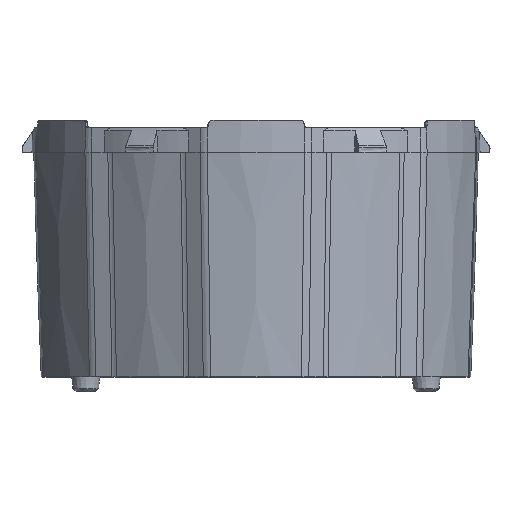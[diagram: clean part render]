
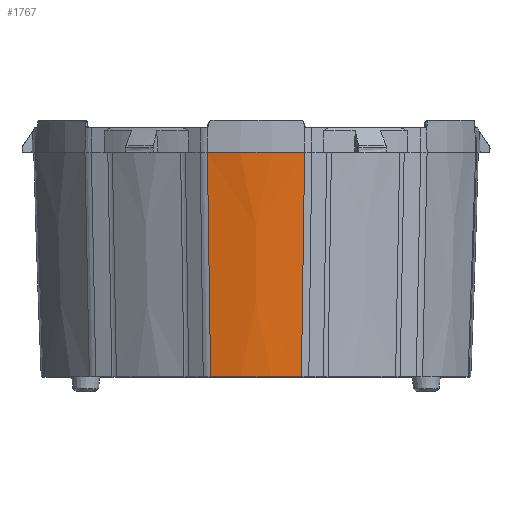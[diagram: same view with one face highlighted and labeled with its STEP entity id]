
A CAD part, top view. The second image highlights one B-rep face of the part: STEP entity #1767.
In plain terms, the highlighted conical face has half-angle 1.9 degrees and reference radius 22.662 mm.
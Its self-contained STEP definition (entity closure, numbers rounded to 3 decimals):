
#1767=ADVANCED_FACE('',(#4159),#4160,.T.);
#4159=FACE_OUTER_BOUND('',#8526,.T.);
#4160=CONICAL_SURFACE('',#8527,22.662,0.033);
#8526=EDGE_LOOP('',(#15235,#15236,#15237,#15238));
#8527=AXIS2_PLACEMENT_3D('',#15239,#15240,#15241);
#15235=ORIENTED_EDGE('',*,*,#21088,.T.);
#15236=ORIENTED_EDGE('',*,*,#21118,.T.);
#15237=ORIENTED_EDGE('',*,*,#22547,.T.);
#15238=ORIENTED_EDGE('',*,*,#22617,.F.);
#15239=CARTESIAN_POINT('',(0.,-1.15,0.));
#15240=DIRECTION('',(0.,1.0,0.));
#15241=DIRECTION('',(0.866,0.,0.5));
#21088=EDGE_CURVE('',#25206,#25204,#25207,.T.);
#21118=EDGE_CURVE('',#25204,#25252,#25254,.F.);
#22547=EDGE_CURVE('',#25252,#24718,#27553,.T.);
#22617=EDGE_CURVE('',#25206,#24718,#27650,.T.);
#24718=VERTEX_POINT('',#30675);
#25204=VERTEX_POINT('',#31670);
#25206=VERTEX_POINT('',#31677);
#25207=B_SPLINE_CURVE_WITH_KNOTS('',3,(#31678,#31679,#31680,#31681),.UNSPECIFIED.,.F.,.F.,(4,4),(0.063,0.086),.UNSPECIFIED.);
#25252=VERTEX_POINT('',#31780);
#25254=CIRCLE('',#31787,22.61);
#27553=B_SPLINE_CURVE_WITH_KNOTS('',3,(#35261,#35262,#35263,#35264),.UNSPECIFIED.,.F.,.F.,(4,4),(0.082,0.105),.UNSPECIFIED.);
#27650=CIRCLE('',#35429,23.364);
#30675=CARTESIAN_POINT('',(4.92,20.0,22.84));
#31670=CARTESIAN_POINT('',(-4.598,-2.7,22.138));
#31677=CARTESIAN_POINT('',(-4.92,20.,22.84));
#31678=CARTESIAN_POINT('',(-4.92,20.,22.84));
#31679=CARTESIAN_POINT('',(-4.813,12.433,22.606));
#31680=CARTESIAN_POINT('',(-4.705,4.867,22.372));
#31681=CARTESIAN_POINT('',(-4.598,-2.7,22.138));
#31780=CARTESIAN_POINT('',(4.598,-2.7,22.138));
#31787=AXIS2_PLACEMENT_3D('',#38763,#38764,#38765);
#35261=CARTESIAN_POINT('',(4.598,-2.7,22.138));
#35262=CARTESIAN_POINT('',(4.705,4.867,22.372));
#35263=CARTESIAN_POINT('',(4.813,12.433,22.606));
#35264=CARTESIAN_POINT('',(4.92,20.,22.84));
#35429=AXIS2_PLACEMENT_3D('',#40570,#40571,#40572);
#38763=CARTESIAN_POINT('',(0.,-2.7,0.));
#38764=DIRECTION('',(0.0,-1.0,0.0));
#38765=DIRECTION('',(0.0,0.0,-1.0));
#40570=CARTESIAN_POINT('',(0.,20.0,0.));
#40571=DIRECTION('',(0.,1.0,0.));
#40572=DIRECTION('',(-0.866,0.,0.5));
